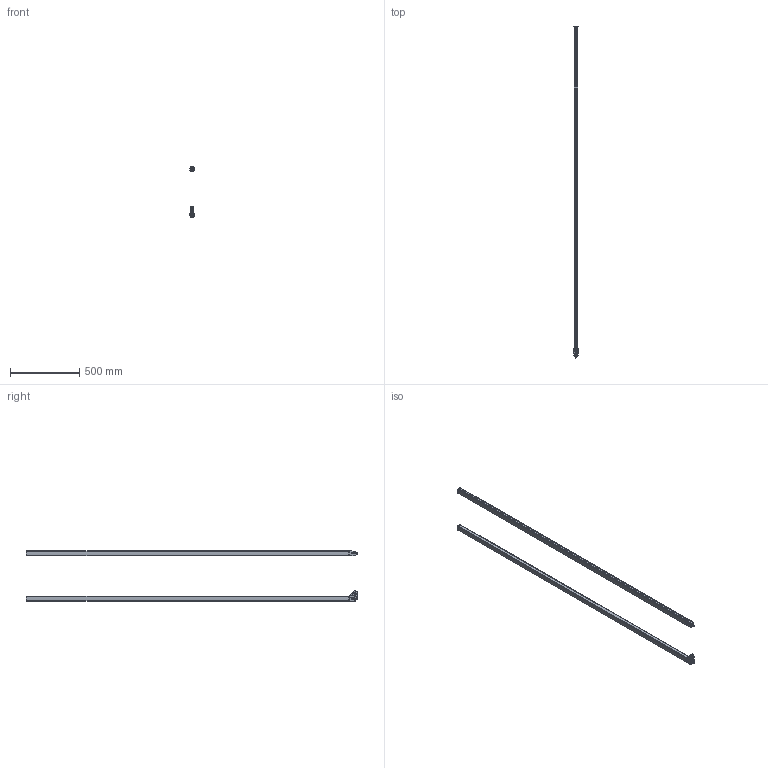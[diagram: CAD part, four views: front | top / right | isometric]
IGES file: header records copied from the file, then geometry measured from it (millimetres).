
Global section: file name: E:\lem\3DCAD_CML700i_PN_2320.igs; native system: NX V8.5; preprocessor: SIEMENS PLM Software NX 8.5; date: 20170919.131451; units: millimetre
Bounding box: 28.99 x 2392.8 x 361.11 mm (x, y, z)
Surface area: 739190.8 mm2 (no closed solid volume)
Topology: 0 solids, 0 shells, 2473 faces, 14638 edges, 14482 vertices
Faces by surface type: bspline 2473
